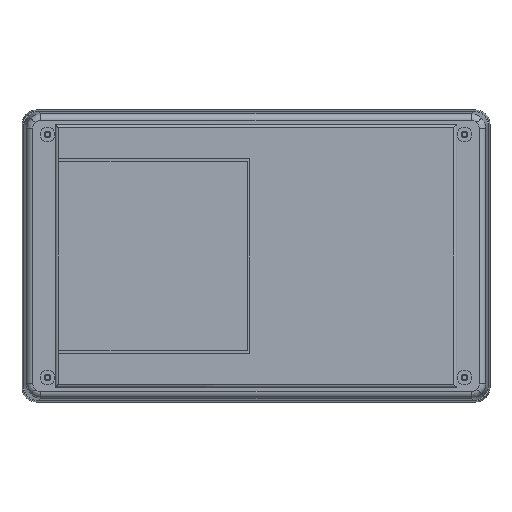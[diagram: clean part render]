
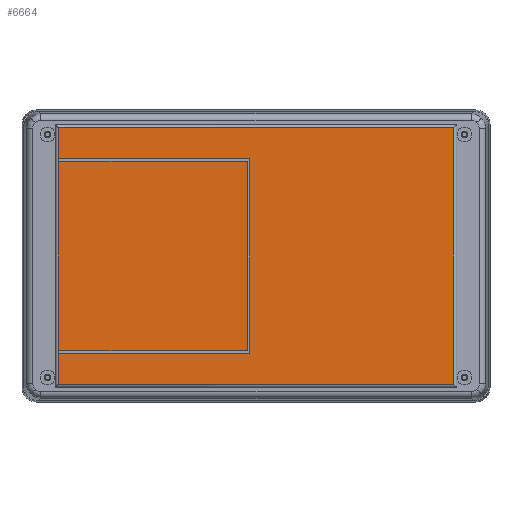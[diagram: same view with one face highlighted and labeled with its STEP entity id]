
A CAD part, front view. The second image highlights one B-rep face of the part: STEP entity #6664.
In plain terms, the highlighted planar face has unit normal (0, -1, 0).
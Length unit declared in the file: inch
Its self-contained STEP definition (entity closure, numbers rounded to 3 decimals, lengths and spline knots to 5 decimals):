
#206 = LINE ( 'NONE', #11765, #4922 ) ;
#418 = VERTEX_POINT ( 'NONE', #8661 ) ;
#432 = DIRECTION ( 'NONE',  ( -1., 0., 0. ) ) ;
#506 = CARTESIAN_POINT ( 'NONE',  ( -0.1063, -0.70866, 1.16929 ) ) ;
#1054 = VECTOR ( 'NONE', #10987, 39.37008 ) ;
#1204 = DIRECTION ( 'NONE',  ( -1., 0., 0. ) ) ;
#1235 = VERTEX_POINT ( 'NONE', #11068 ) ;
#1286 = LINE ( 'NONE', #11571, #3465 ) ;
#1627 = DIRECTION ( 'NONE',  ( 0., 0., -1. ) ) ;
#1779 = VERTEX_POINT ( 'NONE', #6280 ) ;
#1878 = EDGE_CURVE ( 'NONE', #418, #1235, #10191, .T. ) ;
#1938 = CARTESIAN_POINT ( 'NONE',  ( 2.44094, -0.70866, -1.58465 ) ) ;
#2070 = CARTESIAN_POINT ( 'NONE',  ( -2.44094, -0.70866, -1.58465 ) ) ;
#2360 = CARTESIAN_POINT ( 'NONE',  ( -0.1063, -0.70866, -1.16929 ) ) ;
#2363 = DIRECTION ( 'NONE',  ( -1., 0., 0. ) ) ;
#2391 = VECTOR ( 'NONE', #10603, 39.37008 ) ;
#2499 = VERTEX_POINT ( 'NONE', #11849 ) ;
#2588 = VECTOR ( 'NONE', #7958, 39.37008 ) ;
#2596 = LINE ( 'NONE', #6187, #4798 ) ;
#2694 = CARTESIAN_POINT ( 'NONE',  ( -0.0748, -0.70866, 1.20079 ) ) ;
#2875 = EDGE_CURVE ( 'NONE', #5854, #10556, #6655, .T. ) ;
#2941 = EDGE_LOOP ( 'NONE', ( #7434, #7814, #6305, #5685 ) ) ;
#2957 = VECTOR ( 'NONE', #9277, 39.37008 ) ;
#3171 = FACE_OUTER_BOUND ( 'NONE', #2941, .T. ) ;
#3343 = CARTESIAN_POINT ( 'NONE',  ( -2.44094, -0.70866, 1.58465 ) ) ;
#3418 = CARTESIAN_POINT ( 'NONE',  ( 2.44094, -0.70866, 1.62402 ) ) ;
#3458 = EDGE_CURVE ( 'NONE', #5227, #5145, #3553, .T. ) ;
#3465 = VECTOR ( 'NONE', #8719, 39.37008 ) ;
#3553 = LINE ( 'NONE', #3418, #1054 ) ;
#3910 = LINE ( 'NONE', #8190, #6710 ) ;
#4005 = ORIENTED_EDGE ( 'NONE', *, *, #2875, .F. ) ;
#4018 = ORIENTED_EDGE ( 'NONE', *, *, #5335, .F. ) ;
#4150 = VECTOR ( 'NONE', #7124, 39.37008 ) ;
#4798 = VECTOR ( 'NONE', #5256, 39.37008 ) ;
#4857 = EDGE_CURVE ( 'NONE', #1235, #10779, #206, .T. ) ;
#4922 = VECTOR ( 'NONE', #432, 39.37008 ) ;
#4950 = DIRECTION ( 'NONE',  ( 0., 0., -1. ) ) ;
#5145 = VERTEX_POINT ( 'NONE', #5534 ) ;
#5227 = VERTEX_POINT ( 'NONE', #1938 ) ;
#5256 = DIRECTION ( 'NONE',  ( 1., 0., 0. ) ) ;
#5335 = EDGE_CURVE ( 'NONE', #1779, #2499, #9932, .T. ) ;
#5377 = LINE ( 'NONE', #5893, #7574 ) ;
#5531 = VERTEX_POINT ( 'NONE', #7271 ) ;
#5534 = CARTESIAN_POINT ( 'NONE',  ( 2.44094, -0.70866, 1.58465 ) ) ;
#5685 = ORIENTED_EDGE ( 'NONE', *, *, #8338, .T. ) ;
#5854 = VERTEX_POINT ( 'NONE', #2360 ) ;
#5893 = CARTESIAN_POINT ( 'NONE',  ( -2.48031, -0.70866, 1.58465 ) ) ;
#5902 = CARTESIAN_POINT ( 'NONE',  ( -2.43468, -0.70866, 1.16929 ) ) ;
#6120 = CARTESIAN_POINT ( 'NONE',  ( -2.43468, -0.70866, -1.16929 ) ) ;
#6148 = DIRECTION ( 'NONE',  ( 0., 0., -1. ) ) ;
#6187 = CARTESIAN_POINT ( 'NONE',  ( -2.43468, -0.70866, -1.20079 ) ) ;
#6257 = CARTESIAN_POINT ( 'NONE',  ( -2.43468, -0.70866, -1.16929 ) ) ;
#6280 = CARTESIAN_POINT ( 'NONE',  ( -2.43468, -0.70866, 1.16929 ) ) ;
#6305 = ORIENTED_EDGE ( 'NONE', *, *, #10093, .T. ) ;
#6655 = LINE ( 'NONE', #6120, #8878 ) ;
#6664 = ADVANCED_FACE ( 'NONE', ( #10395, #3171 ), #9633, .T. ) ;
#6676 = EDGE_CURVE ( 'NONE', #5145, #7868, #5377, .T. ) ;
#6710 = VECTOR ( 'NONE', #1627, 39.37008 ) ;
#6956 = LINE ( 'NONE', #8976, #4150 ) ;
#7006 = CARTESIAN_POINT ( 'NONE',  ( -2.43468, -0.70866, -1.16929 ) ) ;
#7124 = DIRECTION ( 'NONE',  ( 1., 0., 0. ) ) ;
#7271 = CARTESIAN_POINT ( 'NONE',  ( -2.43468, -0.70866, -1.20079 ) ) ;
#7434 = ORIENTED_EDGE ( 'NONE', *, *, #3458, .T. ) ;
#7574 = VECTOR ( 'NONE', #1204, 39.37008 ) ;
#7582 = LINE ( 'NONE', #7006, #2588 ) ;
#7739 = CARTESIAN_POINT ( 'NONE',  ( -2.43468, -0.70866, 1.20079 ) ) ;
#7814 = ORIENTED_EDGE ( 'NONE', *, *, #6676, .T. ) ;
#7868 = VERTEX_POINT ( 'NONE', #3343 ) ;
#7958 = DIRECTION ( 'NONE',  ( 0., 0., -1. ) ) ;
#8190 = CARTESIAN_POINT ( 'NONE',  ( -2.44094, -0.70866, -1.62402 ) ) ;
#8246 = ORIENTED_EDGE ( 'NONE', *, *, #10464, .F. ) ;
#8338 = EDGE_CURVE ( 'NONE', #11810, #5227, #6956, .T. ) ;
#8371 = VECTOR ( 'NONE', #6148, 39.37008 ) ;
#8377 = EDGE_LOOP ( 'NONE', ( #10105, #10915, #8543, #11907, #8246, #4005, #10776, #4018 ) ) ;
#8543 = ORIENTED_EDGE ( 'NONE', *, *, #1878, .F. ) ;
#8661 = CARTESIAN_POINT ( 'NONE',  ( -0.0748, -0.70866, -1.20079 ) ) ;
#8671 = CARTESIAN_POINT ( 'NONE',  ( -2.48031, -0.70866, 1.62402 ) ) ;
#8719 = DIRECTION ( 'NONE',  ( 0., 0., -1. ) ) ;
#8878 = VECTOR ( 'NONE', #2363, 39.37008 ) ;
#8976 = CARTESIAN_POINT ( 'NONE',  ( 2.48031, -0.70866, -1.58465 ) ) ;
#9277 = DIRECTION ( 'NONE',  ( 0., 0., 1. ) ) ;
#9633 = PLANE ( 'NONE',  #11915 ) ;
#9932 = LINE ( 'NONE', #5902, #2391 ) ;
#9998 = EDGE_CURVE ( 'NONE', #5531, #418, #2596, .T. ) ;
#10093 = EDGE_CURVE ( 'NONE', #7868, #11810, #3910, .T. ) ;
#10105 = ORIENTED_EDGE ( 'NONE', *, *, #10397, .F. ) ;
#10191 = LINE ( 'NONE', #2694, #2957 ) ;
#10395 = FACE_BOUND ( 'NONE', #8377, .T. ) ;
#10397 = EDGE_CURVE ( 'NONE', #10779, #1779, #1286, .T. ) ;
#10464 = EDGE_CURVE ( 'NONE', #10556, #5531, #7582, .T. ) ;
#10556 = VERTEX_POINT ( 'NONE', #6257 ) ;
#10599 = DIRECTION ( 'NONE',  ( 0., -1., 0. ) ) ;
#10603 = DIRECTION ( 'NONE',  ( 1., 0., 0. ) ) ;
#10776 = ORIENTED_EDGE ( 'NONE', *, *, #11997, .F. ) ;
#10779 = VERTEX_POINT ( 'NONE', #7739 ) ;
#10910 = LINE ( 'NONE', #506, #8371 ) ;
#10915 = ORIENTED_EDGE ( 'NONE', *, *, #4857, .F. ) ;
#10987 = DIRECTION ( 'NONE',  ( 0., 0., 1. ) ) ;
#11068 = CARTESIAN_POINT ( 'NONE',  ( -0.0748, -0.70866, 1.20079 ) ) ;
#11571 = CARTESIAN_POINT ( 'NONE',  ( -2.43468, -0.70866, 1.20079 ) ) ;
#11765 = CARTESIAN_POINT ( 'NONE',  ( -2.43468, -0.70866, 1.20079 ) ) ;
#11810 = VERTEX_POINT ( 'NONE', #2070 ) ;
#11849 = CARTESIAN_POINT ( 'NONE',  ( -0.1063, -0.70866, 1.16929 ) ) ;
#11907 = ORIENTED_EDGE ( 'NONE', *, *, #9998, .F. ) ;
#11915 = AXIS2_PLACEMENT_3D ( 'NONE', #8671, #10599, #4950 ) ;
#11997 = EDGE_CURVE ( 'NONE', #2499, #5854, #10910, .T. ) ;
